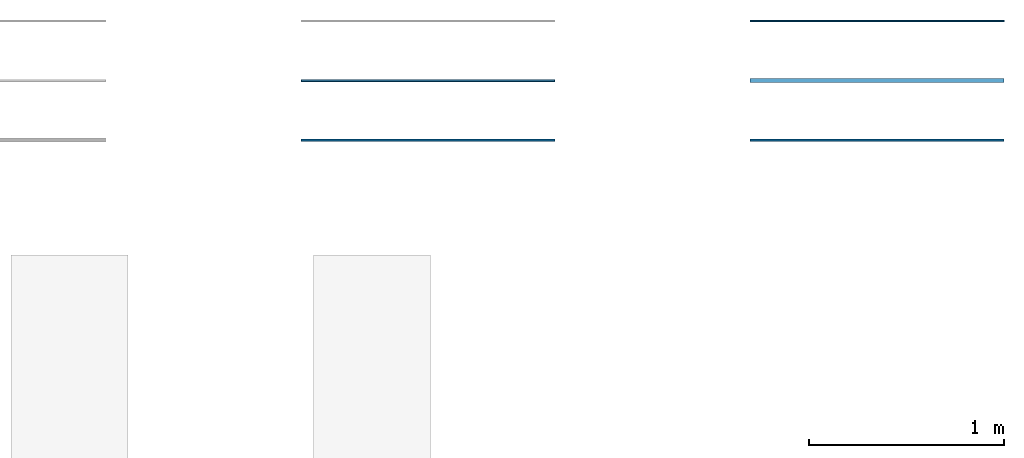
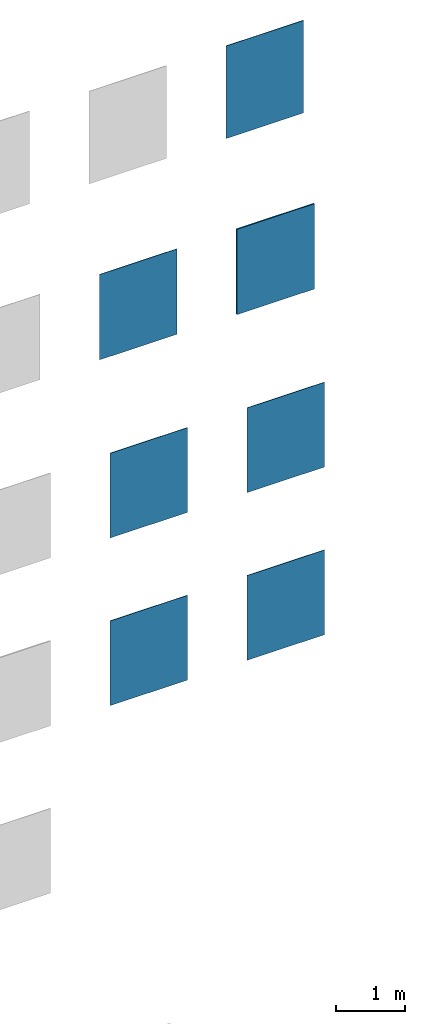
# One storey, part 2 of 2: 7 walls.
"""IFC2X3 building model written with IfcOpenShell, lengths in millimetres."""

from ifc_helpers import new_model, entity, si_unit, converted_unit, derived_unit, direction, frame, frame_2d, origin, place, context, subcontext, project, spatial, rectangle, extrude, material, layer, layer_set, layer_usage, type_object, element, save


model = new_model("IFC2X3")

# Units and contexts
model_context = context("Model", 3, precision=0.01, world=origin(), true_north=direction((6.123031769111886e-17, 1.0)))
body_context = subcontext(model_context, "Body", "Model", "MODEL_VIEW")
ifc_project = project(units=[si_unit("LENGTHUNIT", "METRE", prefix="MILLI"), si_unit("AREAUNIT", "SQUARE_METRE"), si_unit("VOLUMEUNIT", "CUBIC_METRE"), converted_unit("PLANEANGLEUNIT", "DEGREE", entity("IfcPlaneAngleMeasure", 0.017453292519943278), si_unit("PLANEANGLEUNIT", "RADIAN"), dimensions=[0, 0, 0, 0, 0, 0, 0]), si_unit("MASSUNIT", "GRAM", prefix="KILO"), derived_unit("MASSDENSITYUNIT", [(si_unit("MASSUNIT", "GRAM", prefix="KILO"), 1), (si_unit("LENGTHUNIT", "METRE"), -3)]), derived_unit("IONCONCENTRATIONUNIT", [(si_unit("MASSUNIT", "GRAM", prefix="KILO"), 1), (si_unit("LENGTHUNIT", "METRE"), -3)]), derived_unit("MOMENTOFINERTIAUNIT", [(si_unit("LENGTHUNIT", "METRE"), 4)]), si_unit("TIMEUNIT", "SECOND"), si_unit("FREQUENCYUNIT", "HERTZ"), si_unit("THERMODYNAMICTEMPERATUREUNIT", "DEGREE_CELSIUS"), derived_unit("THERMALTRANSMITTANCEUNIT", [(si_unit("MASSUNIT", "GRAM", prefix="KILO"), 1), (si_unit("THERMODYNAMICTEMPERATUREUNIT", "KELVIN"), -1), (si_unit("TIMEUNIT", "SECOND"), -3)]), derived_unit("THERMALCONDUCTANCEUNIT", [(si_unit("MASSUNIT", "GRAM", prefix="KILO"), 1), (si_unit("THERMODYNAMICTEMPERATUREUNIT", "KELVIN"), -1), (si_unit("TIMEUNIT", "SECOND"), -3), (si_unit("LENGTHUNIT", "METRE"), 1)]), derived_unit("VOLUMETRICFLOWRATEUNIT", [(si_unit("LENGTHUNIT", "METRE", prefix="DECI"), 3), (si_unit("TIMEUNIT", "SECOND"), -1)]), derived_unit("MASSFLOWRATEUNIT", [(si_unit("MASSUNIT", "GRAM", prefix="KILO"), 1), (si_unit("TIMEUNIT", "SECOND"), -1)]), derived_unit("ROTATIONALFREQUENCYUNIT", [(si_unit("TIMEUNIT", "SECOND"), -1)]), si_unit("ELECTRICCURRENTUNIT", "AMPERE"), si_unit("ELECTRICVOLTAGEUNIT", "VOLT"), si_unit("POWERUNIT", "WATT"), si_unit("FORCEUNIT", "NEWTON", prefix="KILO"), si_unit("ILLUMINANCEUNIT", "LUX"), si_unit("LUMINOUSFLUXUNIT", "LUMEN"), si_unit("LUMINOUSINTENSITYUNIT", "CANDELA"), si_unit("ENERGYUNIT", "JOULE"), derived_unit("USERDEFINED", [(si_unit("MASSUNIT", "GRAM", prefix="KILO"), -1), (si_unit("LENGTHUNIT", "METRE"), -2), (si_unit("TIMEUNIT", "SECOND"), 3), (si_unit("LUMINOUSFLUXUNIT", "LUMEN"), 1)]), derived_unit("USERDEFINED", [(si_unit("MASSUNIT", "GRAM", prefix="KILO"), 1), (si_unit("TIMEUNIT", "SECOND"), -3), (si_unit("LENGTHUNIT", "METRE"), 3), (si_unit("ELECTRICCURRENTUNIT", "AMPERE"), -2)]), derived_unit("SOUNDPOWERUNIT", [(si_unit("MASSUNIT", "GRAM", prefix="KILO"), 1), (si_unit("TIMEUNIT", "SECOND"), -3), (si_unit("LENGTHUNIT", "METRE"), 2)]), derived_unit("SOUNDPRESSUREUNIT", [(si_unit("MASSUNIT", "GRAM", prefix="KILO"), 1), (si_unit("LENGTHUNIT", "METRE"), -1), (si_unit("TIMEUNIT", "SECOND"), -2)]), derived_unit("LINEARVELOCITYUNIT", [(si_unit("LENGTHUNIT", "METRE"), 1), (si_unit("TIMEUNIT", "SECOND"), -1)]), si_unit("PRESSUREUNIT", "PASCAL"), derived_unit("USERDEFINED", [(si_unit("MASSUNIT", "GRAM", prefix="KILO"), 1), (si_unit("LENGTHUNIT", "METRE"), -2), (si_unit("TIMEUNIT", "SECOND"), -2)]), derived_unit("LINEARFORCEUNIT", [(si_unit("MASSUNIT", "GRAM", prefix="KILO"), 1), (si_unit("TIMEUNIT", "SECOND"), -2)]), derived_unit("PLANARFORCEUNIT", [(si_unit("MASSUNIT", "GRAM", prefix="KILO"), 1), (si_unit("LENGTHUNIT", "METRE"), -1), (si_unit("TIMEUNIT", "SECOND"), -2)]), derived_unit("SPECIFICHEATCAPACITYUNIT", [(si_unit("THERMODYNAMICTEMPERATUREUNIT", "KELVIN"), -1), (si_unit("LENGTHUNIT", "METRE"), 2), (si_unit("TIMEUNIT", "SECOND"), -2)]), derived_unit("HEATFLUXDENSITYUNIT", [(si_unit("MASSUNIT", "GRAM", prefix="KILO"), 1), (si_unit("TIMEUNIT", "SECOND"), -3)]), derived_unit("HEATINGVALUEUNIT", [(si_unit("LENGTHUNIT", "METRE"), 2), (si_unit("TIMEUNIT", "SECOND"), -2)]), derived_unit("VAPORPERMEABILITYUNIT", [(si_unit("LENGTHUNIT", "METRE"), -1), (si_unit("TIMEUNIT", "SECOND"), 1)]), derived_unit("DYNAMICVISCOSITYUNIT", [(si_unit("MASSUNIT", "GRAM", prefix="KILO"), 1), (si_unit("TIMEUNIT", "SECOND"), -1), (si_unit("LENGTHUNIT", "METRE"), -1)]), derived_unit("THERMALEXPANSIONCOEFFICIENTUNIT", [(si_unit("THERMODYNAMICTEMPERATUREUNIT", "KELVIN"), -1)]), derived_unit("MODULUSOFELASTICITYUNIT", [(si_unit("MASSUNIT", "GRAM", prefix="KILO"), 1), (si_unit("LENGTHUNIT", "METRE"), -1), (si_unit("TIMEUNIT", "SECOND"), -2)]), derived_unit("ISOTHERMALMOISTURECAPACITYUNIT", [(si_unit("MASSUNIT", "GRAM", prefix="KILO"), -1), (si_unit("LENGTHUNIT", "METRE"), 3)]), derived_unit("MOISTUREDIFFUSIVITYUNIT", [(si_unit("TIMEUNIT", "SECOND"), -1), (si_unit("LENGTHUNIT", "METRE"), 2)]), derived_unit("MASSPERLENGTHUNIT", [(si_unit("MASSUNIT", "GRAM", prefix="KILO"), 1), (si_unit("LENGTHUNIT", "METRE"), -1)]), derived_unit("THERMALRESISTANCEUNIT", [(si_unit("MASSUNIT", "GRAM", prefix="KILO"), -1), (si_unit("TIMEUNIT", "SECOND"), 3), (si_unit("THERMODYNAMICTEMPERATUREUNIT", "KELVIN"), 1)]), derived_unit("ACCELERATIONUNIT", [(si_unit("LENGTHUNIT", "METRE"), 1), (si_unit("TIMEUNIT", "SECOND"), -2)]), derived_unit("ANGULARVELOCITYUNIT", [(si_unit("TIMEUNIT", "SECOND"), -1), (si_unit("PLANEANGLEUNIT", "RADIAN"), 1)]), derived_unit("LINEARSTIFFNESSUNIT", [(si_unit("MASSUNIT", "GRAM", prefix="KILO"), 1), (si_unit("TIMEUNIT", "SECOND"), -2)]), derived_unit("WARPINGCONSTANTUNIT", [(si_unit("LENGTHUNIT", "METRE"), 6)]), derived_unit("LINEARMOMENTUNIT", [(si_unit("MASSUNIT", "GRAM", prefix="KILO"), 1), (si_unit("LENGTHUNIT", "METRE"), 1), (si_unit("TIMEUNIT", "SECOND"), -2)]), derived_unit("TORQUEUNIT", [(si_unit("MASSUNIT", "GRAM", prefix="KILO"), 1), (si_unit("LENGTHUNIT", "METRE"), 2), (si_unit("TIMEUNIT", "SECOND"), -2)])], contexts=[model_context])

# Site, building, storey
site_placement = place(None, origin())
site = spatial("IfcSite", under=ifc_project, at=site_placement, Name="Default", CompositionType="ELEMENT")
building_placement = place(site_placement, origin())
building = spatial("IfcBuilding", under=site, at=building_placement, CompositionType="ELEMENT")
storey_placement = place(building_placement, origin())
storey = spatial("IfcBuildingStorey", under=building, at=storey_placement, Name="Level 0", CompositionType="ELEMENT", Elevation=0.0)

# Walls
ifc_material_1 = material(Name="<Unnamed>")
ifc_layer_1 = layer(ifc_material_1, 1.0)
ifc_material_2 = material(Name="Eik-Coffee-25x150 RJ99")
ifc_layer_2 = layer(ifc_material_2, 9.0)
ifc_layer_set_1 = layer_set([ifc_layer_1, ifc_layer_2], Name="Basic Wall:Wall_Tiles_Refin-Eik-Coffee-25x150 RJ99")
ifc_layer_usage_1 = layer_usage(ifc_layer_set_1, "AXIS2", "NEGATIVE", 5.000000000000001)
wall_type_1 = type_object("IfcWallType", Name="Basic Wall:Wall_Tiles_Refin-Eik-Coffee-25x150 RJ99", PredefinedType="STANDARD", material=ifc_layer_set_1)
wall_1_placement = place(storey_placement, frame((10914.375206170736, 7832.383863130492, 11452.543626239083)))
element("IfcWallStandardCase", 1, at=wall_1_placement, inside=storey, type_object=wall_type_1, material=ifc_layer_usage_1, Name="Basic Wall:Wall_Tiles_Refin-Eik-Coffee-25x150 RJ99", ObjectType="Basic Wall:Wall_Tiles_Refin-Eik-Coffee-25x150 RJ99", context=body_context, shape_type="SweptSolid", body=[
    extrude(rectangle(XDim=1299.999999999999, YDim=9.999999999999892, at=frame_2d((649.9999999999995, 0.0), x_axis=(-1.0, 0.0))), origin(), (0.0, 0.0, 1.0), 1513.1985565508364),
])
ifc_layer_3 = layer(ifc_material_1, 1.0)
ifc_material_3 = material(Name="Eik-Honey-OUT2.0-30x120 RN20")
ifc_layer_4 = layer(ifc_material_3, 20.0)
ifc_layer_set_2 = layer_set([ifc_layer_3, ifc_layer_4], Name="Basic Wall:Wall_Tiles_Refin-Eik-Honey-OUT2.0-30x120 RN20")
ifc_layer_usage_2 = layer_usage(ifc_layer_set_2, "AXIS2", "NEGATIVE", 10.5)
wall_type_2 = type_object("IfcWallType", Name="Basic Wall:Wall_Tiles_Refin-Eik-Honey-OUT2.0-30x120 RN20", PredefinedType="STANDARD", material=ifc_layer_set_2)
wall_2_placement = place(storey_placement, frame((13214.375206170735, 7832.383863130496, 11452.543626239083)))
element("IfcWallStandardCase", 2, at=wall_2_placement, inside=storey, type_object=wall_type_2, material=ifc_layer_usage_2, Name="Basic Wall:Wall_Tiles_Refin-Eik-Honey-OUT2.0-30x120 RN20", ObjectType="Basic Wall:Wall_Tiles_Refin-Eik-Honey-OUT2.0-30x120 RN20", context=body_context, shape_type="SweptSolid", body=[
    extrude(rectangle(XDim=1300.0000000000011, YDim=20.999999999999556, at=frame_2d((650.0000000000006, 0.0), x_axis=(-1.0, 0.0))), origin(), (0.0, 0.0, 1.0), 1513.1985565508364),
])
ifc_layer_5 = layer(ifc_material_1, 1.0)
ifc_material_4 = material(Name="Eik-Canné-Honey-60x120 RK82")
ifc_layer_6 = layer(ifc_material_4, 9.0)
ifc_layer_set_3 = layer_set([ifc_layer_5, ifc_layer_6], Name="Basic Wall:Wall_Tiles_Refin-Eik-Canné-Honey-60x120 RK82")
ifc_layer_usage_3 = layer_usage(ifc_layer_set_3, "AXIS2", "NEGATIVE", 5.000000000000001)
wall_type_3 = type_object("IfcWallType", Name="Basic Wall:Wall_Tiles_Refin-Eik-Canné-Honey-60x120 RK82", PredefinedType="STANDARD", material=ifc_layer_set_3)
wall_3_placement = place(storey_placement, frame((13214.375206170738, 8137.383863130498, 14387.677044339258)))
element("IfcWallStandardCase", 3, at=wall_3_placement, inside=storey, type_object=wall_type_3, material=ifc_layer_usage_3, Name="Basic Wall:Wall_Tiles_Refin-Eik-Canné-Honey-60x120 RK82", ObjectType="Basic Wall:Wall_Tiles_Refin-Eik-Canné-Honey-60x120 RK82", context=body_context, shape_type="SweptSolid", body=[
    extrude(rectangle(XDim=1300.0000000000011, YDim=9.999999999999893, at=frame_2d((650.0000000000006, 7.638334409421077e-14), x_axis=(-1.0, 0.0))), origin(), (0.0, 0.0, 1.0), 1641.7417352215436),
])
ifc_layer_7 = layer(ifc_material_1, 1.0)
ifc_material_5 = material(Name="Eik-Leaf-Honey-60x60 RL62")
ifc_layer_8 = layer(ifc_material_5, 9.0)
ifc_layer_set_4 = layer_set([ifc_layer_7, ifc_layer_8], Name="Basic Wall:Wall_Tiles_Refin-Eik-Leaf-Honey-60x60 RL62")
ifc_layer_usage_4 = layer_usage(ifc_layer_set_4, "AXIS2", "NEGATIVE", 5.000000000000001)
wall_type_4 = type_object("IfcWallType", Name="Basic Wall:Wall_Tiles_Refin-Eik-Leaf-Honey-60x60 RL62", PredefinedType="STANDARD", material=ifc_layer_set_4)
wall_4_placement = place(storey_placement, frame((10914.375206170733, 7527.383863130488, 8479.102721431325)))
element("IfcWallStandardCase", 4, at=wall_4_placement, inside=storey, type_object=wall_type_4, material=ifc_layer_usage_4, Name="Basic Wall:Wall_Tiles_Refin-Eik-Leaf-Honey-60x60 RL62", ObjectType="Basic Wall:Wall_Tiles_Refin-Eik-Leaf-Honey-60x60 RL62", context=body_context, shape_type="SweptSolid", body=[
    extrude(rectangle(XDim=1300.0000000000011, YDim=9.999999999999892, at=frame_2d((650.0000000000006, 0.0), x_axis=(-1.0, 0.0))), origin(), (0.0, 0.0, 1.0), 1502.5740159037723),
])
ifc_layer_9 = layer(ifc_material_1, 1.0)
ifc_material_6 = material(Name="Eik-Leaf-Natural-60x60 RL63")
ifc_layer_10 = layer(ifc_material_6, 9.0)
ifc_layer_set_5 = layer_set([ifc_layer_9, ifc_layer_10], Name="Basic Wall:Wall_Tiles_Refin-Eik-Leaf-Natural-60x60 RL63")
ifc_layer_usage_5 = layer_usage(ifc_layer_set_5, "AXIS2", "NEGATIVE", 5.000000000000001)
wall_type_5 = type_object("IfcWallType", Name="Basic Wall:Wall_Tiles_Refin-Eik-Leaf-Natural-60x60 RL63", PredefinedType="STANDARD", material=ifc_layer_set_5)
wall_5_placement = place(storey_placement, frame((13214.375206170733, 7527.383863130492, 8479.102721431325)))
element("IfcWallStandardCase", 5, at=wall_5_placement, inside=storey, type_object=wall_type_5, material=ifc_layer_usage_5, Name="Basic Wall:Wall_Tiles_Refin-Eik-Leaf-Natural-60x60 RL63", ObjectType="Basic Wall:Wall_Tiles_Refin-Eik-Leaf-Natural-60x60 RL63", context=body_context, shape_type="SweptSolid", body=[
    extrude(rectangle(XDim=1300.0000000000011, YDim=9.999999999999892, at=frame_2d((650.0000000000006, 0.0), x_axis=(-1.0, 0.0))), origin(), (0.0, 0.0, 1.0), 1502.5740159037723),
])
ifc_layer_11 = layer(ifc_material_1, 1.0)
ifc_material_7 = material(Name="Eik-Natural-25x150 RK01")
ifc_layer_12 = layer(ifc_material_7, 9.0)
ifc_layer_set_6 = layer_set([ifc_layer_11, ifc_layer_12], Name="Basic Wall:Wall_Tiles_Refin-Eik-Natural-25x150 RK01")
ifc_layer_usage_6 = layer_usage(ifc_layer_set_6, "AXIS2", "NEGATIVE", 5.000000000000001)
wall_type_6 = type_object("IfcWallType", Name="Basic Wall:Wall_Tiles_Refin-Eik-Natural-25x150 RK01", PredefinedType="STANDARD", material=ifc_layer_set_6)
wall_6_placement = place(storey_placement, frame((10914.375206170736, 7527.3838631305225, 5505.661816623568)))
element("IfcWallStandardCase", 6, at=wall_6_placement, inside=storey, type_object=wall_type_6, material=ifc_layer_usage_6, Name="Basic Wall:Wall_Tiles_Refin-Eik-Natural-25x150 RK01", ObjectType="Basic Wall:Wall_Tiles_Refin-Eik-Natural-25x150 RK01", context=body_context, shape_type="SweptSolid", body=[
    extrude(rectangle(XDim=1299.999999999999, YDim=9.999999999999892, at=frame_2d((649.9999999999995, 0.0), x_axis=(-1.0, 0.0))), origin(), (0.0, 0.0, 1.0), 1502.5740159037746),
])
ifc_layer_13 = layer(ifc_material_1, 1.0)
ifc_material_8 = material(Name="Eik-Nut-25x150 RK02")
ifc_layer_14 = layer(ifc_material_8, 9.0)
ifc_layer_set_7 = layer_set([ifc_layer_13, ifc_layer_14], Name="Basic Wall:Wall_Tiles_Refin-Eik-Nut-25x150 RK02")
ifc_layer_usage_7 = layer_usage(ifc_layer_set_7, "AXIS2", "NEGATIVE", 5.000000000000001)
wall_type_7 = type_object("IfcWallType", Name="Basic Wall:Wall_Tiles_Refin-Eik-Nut-25x150 RK02", PredefinedType="STANDARD", material=ifc_layer_set_7)
wall_7_placement = place(storey_placement, frame((13214.375206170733, 7527.383863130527, 5505.661816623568)))
element("IfcWallStandardCase", 7, at=wall_7_placement, inside=storey, type_object=wall_type_7, material=ifc_layer_usage_7, Name="Basic Wall:Wall_Tiles_Refin-Eik-Nut-25x150 RK02", ObjectType="Basic Wall:Wall_Tiles_Refin-Eik-Nut-25x150 RK02", context=body_context, shape_type="SweptSolid", body=[
    extrude(rectangle(XDim=1300.0000000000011, YDim=9.999999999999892, at=frame_2d((650.0000000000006, 0.0), x_axis=(-1.0, 0.0))), origin(), (0.0, 0.0, 1.0), 1502.5740159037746),
])

save(model, "model.ifc")
